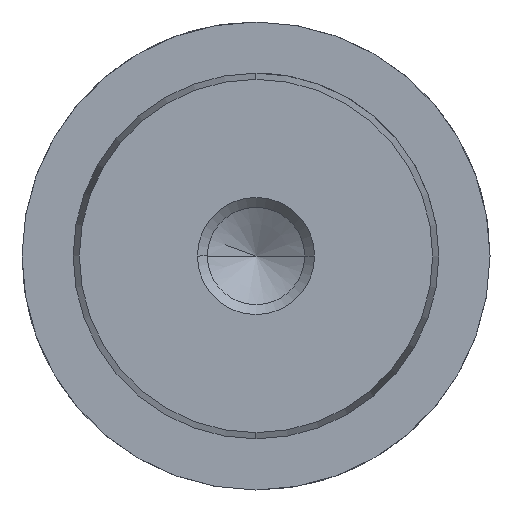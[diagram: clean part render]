
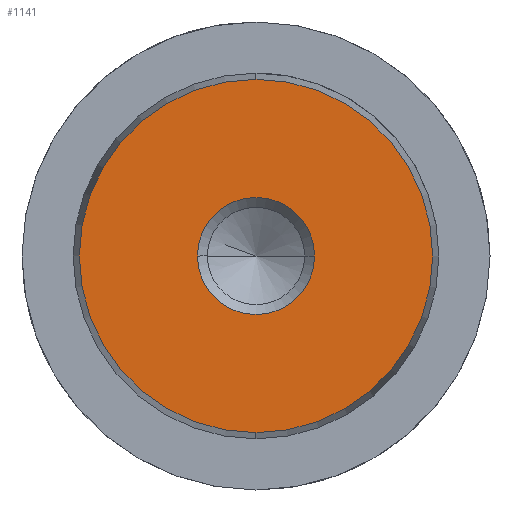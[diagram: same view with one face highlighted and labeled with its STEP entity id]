
A CAD part, left-side view. The second image highlights one B-rep face of the part: STEP entity #1141.
In plain terms, the highlighted planar face has unit normal (-1, 0, 0).
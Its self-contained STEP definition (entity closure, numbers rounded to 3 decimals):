
#1055=CARTESIAN_POINT('Vertex',(0.,0.,-12.078)) ;
#1058=CARTESIAN_POINT('Axis2P3D Location',(0.,0.,0.)) ;
#1062=CARTESIAN_POINT('Vertex',(0.,12.078,0.)) ;
#1065=CARTESIAN_POINT('Axis2P3D Location',(0.,0.,0.)) ;
#1069=CARTESIAN_POINT('Vertex',(0.,0.,12.078)) ;
#1091=CARTESIAN_POINT('Axis2P3D Location',(0.,0.,0.)) ;
#1095=CARTESIAN_POINT('Vertex',(0.,-12.078,0.)) ;
#1098=CARTESIAN_POINT('Axis2P3D Location',(0.,0.,0.)) ;
#1112=CARTESIAN_POINT('Axis2P3D Location',(0.,0.,0.)) ;
#1123=CARTESIAN_POINT('Axis2P3D Location',(0.,0.,0.)) ;
#1127=CARTESIAN_POINT('Vertex',(0.,4.,0.)) ;
#1129=CARTESIAN_POINT('Vertex',(0.,-4.,0.)) ;
#1132=CARTESIAN_POINT('Axis2P3D Location',(0.,0.,0.)) ;
#1059=DIRECTION('Axis2P3D Direction',(1.,-0.,0.)) ;
#1066=DIRECTION('Axis2P3D Direction',(1.,-0.,0.)) ;
#1092=DIRECTION('Axis2P3D Direction',(1.,0.,-0.)) ;
#1099=DIRECTION('Axis2P3D Direction',(1.,0.,-0.)) ;
#1113=DIRECTION('Axis2P3D Direction',(1.,0.,-0.)) ;
#1114=DIRECTION('Axis2P3D XDirection',(-0.,0.,-1.)) ;
#1124=DIRECTION('Axis2P3D Direction',(1.,0.,-0.)) ;
#1133=DIRECTION('Axis2P3D Direction',(1.,0.,-0.)) ;
#1060=AXIS2_PLACEMENT_3D('Circle Axis2P3D',#1058,#1059,$) ;
#1067=AXIS2_PLACEMENT_3D('Circle Axis2P3D',#1065,#1066,$) ;
#1093=AXIS2_PLACEMENT_3D('Circle Axis2P3D',#1091,#1092,$) ;
#1100=AXIS2_PLACEMENT_3D('Circle Axis2P3D',#1098,#1099,$) ;
#1115=AXIS2_PLACEMENT_3D('Plane Axis2P3D',#1112,#1113,#1114) ;
#1125=AXIS2_PLACEMENT_3D('Circle Axis2P3D',#1123,#1124,$) ;
#1134=AXIS2_PLACEMENT_3D('Circle Axis2P3D',#1132,#1133,$) ;
#1118=ORIENTED_EDGE('',*,*,#1064,.F.) ;
#1119=ORIENTED_EDGE('',*,*,#1102,.F.) ;
#1120=ORIENTED_EDGE('',*,*,#1097,.F.) ;
#1121=ORIENTED_EDGE('',*,*,#1071,.F.) ;
#1138=ORIENTED_EDGE('',*,*,#1131,.T.) ;
#1139=ORIENTED_EDGE('',*,*,#1136,.T.) ;
#1140=FACE_BOUND('',#1137,.T.) ;
#1141=ADVANCED_FACE('719-25x250',(#1122,#1140),#1116,.F.) ;
#1061=CIRCLE('generated circle',#1060,12.078) ;
#1068=CIRCLE('generated circle',#1067,12.078) ;
#1094=CIRCLE('generated circle',#1093,12.078) ;
#1101=CIRCLE('generated circle',#1100,12.078) ;
#1126=CIRCLE('generated circle',#1125,4.) ;
#1135=CIRCLE('generated circle',#1134,4.) ;
#1064=EDGE_CURVE('',#1056,#1063,#1061,.T.) ;
#1071=EDGE_CURVE('',#1063,#1070,#1068,.T.) ;
#1097=EDGE_CURVE('',#1070,#1096,#1094,.T.) ;
#1102=EDGE_CURVE('',#1096,#1056,#1101,.T.) ;
#1131=EDGE_CURVE('',#1128,#1130,#1126,.T.) ;
#1136=EDGE_CURVE('',#1130,#1128,#1135,.T.) ;
#1117=EDGE_LOOP('',(#1118,#1119,#1120,#1121)) ;
#1137=EDGE_LOOP('',(#1138,#1139)) ;
#1122=FACE_OUTER_BOUND('',#1117,.T.) ;
#1116=PLANE('Plane',#1115) ;
#1056=VERTEX_POINT('',#1055) ;
#1063=VERTEX_POINT('',#1062) ;
#1070=VERTEX_POINT('',#1069) ;
#1096=VERTEX_POINT('',#1095) ;
#1128=VERTEX_POINT('',#1127) ;
#1130=VERTEX_POINT('',#1129) ;
